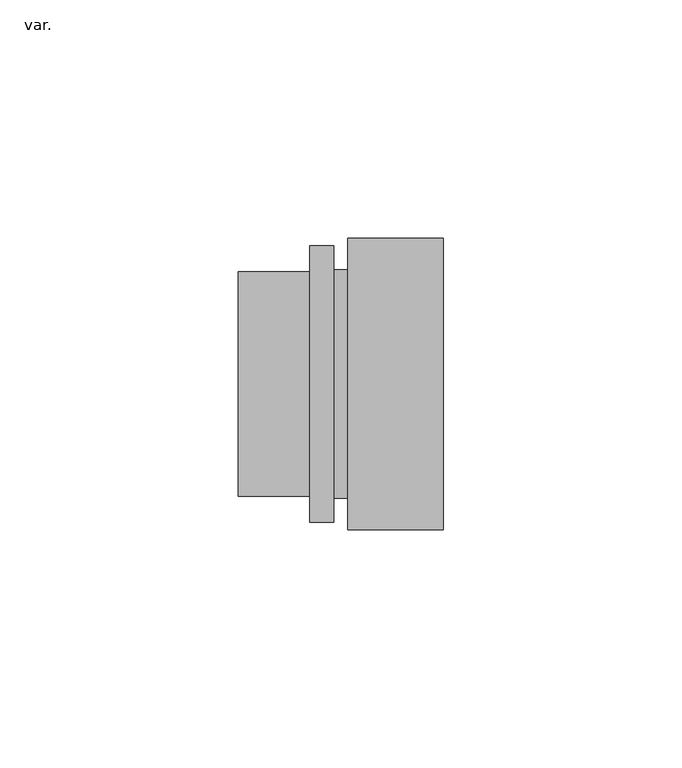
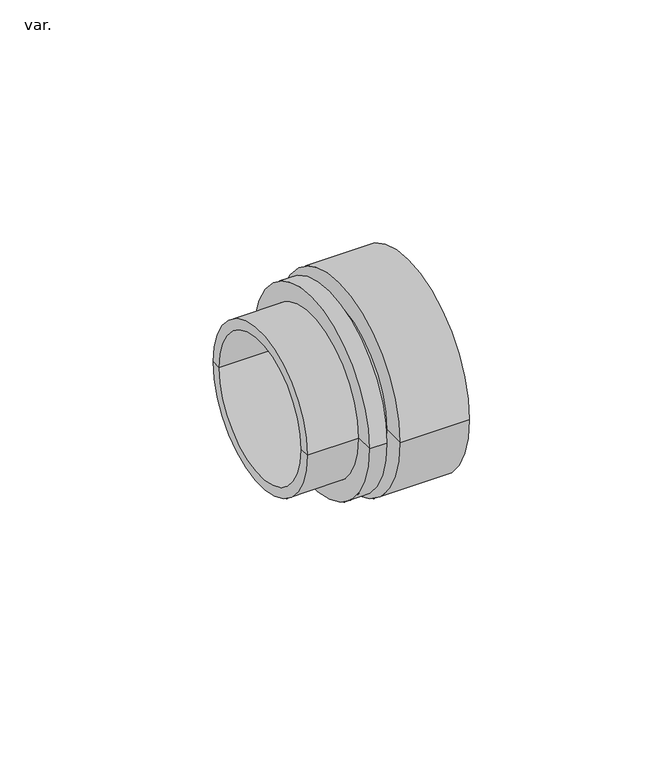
"""IFC4 building model written with IfcOpenShell, lengths in millimetres: valve geometry, AmancoWavin_Unionesdetubería_HepVoPPZNoUsarAdaptadorDeslizantePP : var.."""

from ifc_helpers import new_model, si_unit, frame, origin, place, context, project, spatial, polyline, circle_curve, source, transform, mapped, element, save
from ifc_brep_helpers import plane_surface, cylinder_surface, revolved_surface, advanced_brep


def var_55d9fc44(model_context):
    return source(origin(), model_context, "Body", "AdvancedBrep", [
        advanced_brep(
        [(0.0, -20.7, 0.0), (0.0, 20.7, 0.0), (0.0, 23.6, 0.0), (0.0, -23.6, 0.0), (43.0, -20.7, 0.0), (43.0, 20.7, 0.0), (43.0, -30.55, 0.0), (43.0, 30.55, 0.0), (23.0, -30.55, 0.0), (23.0, 30.55, 0.0), (23.0, -24.0, 0.0), (23.0, 24.0, 0.0), (20.0, -24.0, 0.0), (20.0, 24.0, 0.0), (20.0, -29.0, 0.0), (20.0, 29.0, 0.0), (15.0, -29.0, 0.0), (15.0, 29.0, 0.0), (15.0, -23.6, 0.0), (15.0, 23.6, 0.0)],
        [
            (0, 1, circle_curve(frame((0.0, 0.0, 0.0), z_axis=(1.0, 0.0, 0.0), x_axis=(0.0, 1.0, 0.0)), 20.7)),
            (1, 2),
            (2, 3, circle_curve(frame((0.0, 0.0, 0.0), z_axis=(-1.0, 0.0, 0.0), x_axis=(0.0, 1.0, 0.0)), 23.6)),
            (3, 0),
            (1, 0, circle_curve(frame((0.0, 0.0, 0.0), z_axis=(1.0, 0.0, 0.0), x_axis=(0.0, 1.0, 0.0)), 20.7)),
            (3, 2, circle_curve(frame((0.0, 0.0, 0.0), z_axis=(-1.0, 0.0, 0.0), x_axis=(0.0, 1.0, 0.0)), 23.6)),
            (4, 5, circle_curve(frame((43.0, 0.0, 0.0), z_axis=(1.0, 0.0, 0.0), x_axis=(0.0, 1.0, 0.0)), 20.7)),
            (5, 1),
            (0, 4),
            (5, 4, circle_curve(frame((43.0, 0.0, 0.0), z_axis=(1.0, 0.0, 0.0), x_axis=(0.0, 1.0, 0.0)), 20.7)),
            (6, 7, circle_curve(frame((43.0, 0.0, 0.0), z_axis=(1.0, 0.0, 0.0), x_axis=(0.0, 1.0, 0.0)), 30.55)),
            (7, 5),
            (4, 6),
            (7, 6, circle_curve(frame((43.0, 0.0, 0.0), z_axis=(1.0, 0.0, 0.0), x_axis=(0.0, 1.0, 0.0)), 30.55)),
            (8, 9, circle_curve(frame((23.0, 0.0, 0.0), z_axis=(1.0, 0.0, 0.0), x_axis=(0.0, 1.0, 0.0)), 30.55)),
            (9, 7),
            (6, 8),
            (9, 8, circle_curve(frame((23.0, 0.0, 0.0), z_axis=(1.0, 0.0, 0.0), x_axis=(0.0, 1.0, 0.0)), 30.55)),
            (10, 11, circle_curve(frame((23.0, 0.0, 0.0), z_axis=(1.0, 0.0, 0.0), x_axis=(0.0, 1.0, 0.0)), 24.0)),
            (11, 9),
            (8, 10),
            (11, 10, circle_curve(frame((23.0, 0.0, 0.0), z_axis=(1.0, 0.0, 0.0), x_axis=(0.0, 1.0, 0.0)), 24.0)),
            (12, 13, circle_curve(frame((20.0, 0.0, 0.0), z_axis=(1.0, 0.0, 0.0), x_axis=(0.0, 1.0, 0.0)), 24.0)),
            (13, 11),
            (10, 12),
            (13, 12, circle_curve(frame((20.0, 0.0, 0.0), z_axis=(1.0, 0.0, 0.0), x_axis=(0.0, 1.0, 0.0)), 24.0)),
            (14, 15, circle_curve(frame((20.0, 0.0, 0.0), z_axis=(1.0, 0.0, 0.0), x_axis=(0.0, 1.0, 0.0)), 29.0)),
            (15, 13),
            (12, 14),
            (15, 14, circle_curve(frame((20.0, 0.0, 0.0), z_axis=(1.0, 0.0, 0.0), x_axis=(0.0, 1.0, 0.0)), 29.0)),
            (16, 17, circle_curve(frame((15.0, 0.0, 0.0), z_axis=(1.0, 0.0, 0.0), x_axis=(0.0, 1.0, 0.0)), 29.0)),
            (17, 15),
            (14, 16),
            (17, 16, circle_curve(frame((15.0, 0.0, 0.0), z_axis=(1.0, 0.0, 0.0), x_axis=(0.0, 1.0, 0.0)), 29.0)),
            (18, 19, circle_curve(frame((15.0, 0.0, 0.0), z_axis=(1.0, 0.0, 0.0), x_axis=(0.0, 1.0, 0.0)), 23.6)),
            (19, 17),
            (16, 18),
            (19, 18, circle_curve(frame((15.0, 0.0, 0.0), z_axis=(1.0, 0.0, 0.0), x_axis=(0.0, 1.0, 0.0)), 23.6)),
            (2, 19),
            (18, 3),
        ],
        [
            plane_surface(frame((0.0, 0.0, 0.0), z_axis=(-1.0, 0.0, 0.0), x_axis=(0.0, 1.0, 0.0))),
            revolved_surface(polyline([(0.0, 20.7, 0.0), (43.0, 20.7, 0.0)]), (2013.0394706, 0.0, 0.0), (-1.0, 0.0, 0.0)),
            plane_surface(frame((43.0, 0.0, 0.0), z_axis=(1.0, 0.0, 0.0), x_axis=(0.0, 1.0, 0.0))),
            cylinder_surface(frame((2013.0394706, 0.0, 0.0), z_axis=(-1.0, 0.0, 0.0), x_axis=(0.0, 1.0, 0.0)), 30.55),
            plane_surface(frame((23.0, 0.0, 0.0), z_axis=(-1.0, 0.0, 0.0), x_axis=(0.0, 1.0, 0.0))),
            cylinder_surface(frame((2013.0394706, 0.0, 0.0), z_axis=(-1.0, 0.0, 0.0), x_axis=(0.0, 1.0, 0.0)), 24.0),
            plane_surface(frame((20.0, 0.0, 0.0), z_axis=(1.0, 0.0, 0.0), x_axis=(0.0, 1.0, 0.0))),
            cylinder_surface(frame((2013.0394706, 0.0, 0.0), z_axis=(-1.0, 0.0, 0.0), x_axis=(0.0, 1.0, 0.0)), 29.0),
            plane_surface(frame((15.0, 0.0, 0.0), z_axis=(-1.0, 0.0, 0.0), x_axis=(0.0, 1.0, 0.0))),
            cylinder_surface(frame((2013.0394706, 0.0, 0.0), z_axis=(-1.0, 0.0, 0.0), x_axis=(0.0, 1.0, 0.0)), 23.6),
        ],
        [
            (0, [[1, 2, 3, 4]]),
            (0, [[5, -4, 6, -2]]),
            (1, [[7, 8, -1, 9]]),
            (1, [[10, -9, -5, -8]]),
            (2, [[11, 12, -7, 13]]),
            (2, [[14, -13, -10, -12]]),
            (3, [[15, 16, -11, 17]]),
            (3, [[18, -17, -14, -16]]),
            (4, [[19, 20, -15, 21]]),
            (4, [[22, -21, -18, -20]]),
            (5, [[23, 24, -19, 25]]),
            (5, [[26, -25, -22, -24]]),
            (6, [[27, 28, -23, 29]]),
            (6, [[30, -29, -26, -28]]),
            (7, [[31, 32, -27, 33]]),
            (7, [[34, -33, -30, -32]]),
            (8, [[35, 36, -31, 37]]),
            (8, [[38, -37, -34, -36]]),
            (9, [[-3, 39, -35, 40]]),
            (9, [[-6, -40, -38, -39]]),
        ],
    ),
    ])


if __name__ == "__main__":
    model = new_model("IFC4")
    model_context = context("Model", 3, world=origin())
    ifc_project = project(units=[si_unit("LENGTHUNIT", "METRE", prefix="MILLI")], contexts=[model_context])
    site = spatial("IfcSite", under=ifc_project)
    building = spatial("IfcBuilding", under=site)
    placement = place(None, origin())
    var_shape = var_55d9fc44(model_context)
    element("IfcValve", 1, ObjectType="AmancoWavin_Unionesdetubería_HepVoPPZNoUsarAdaptadorDeslizantePP : var.", at=placement, inside=building, context=model_context, shape_type="MappedRepresentation", body=[
        mapped(var_shape, transform((0.0, 0.0, 0.0), x_axis=(1.0, 0.0, 0.0), y_axis=(0.0, 1.0, 0.0), z_axis=(0.0, 0.0, 1.0))),
    ])
    save(model, "model.ifc")
